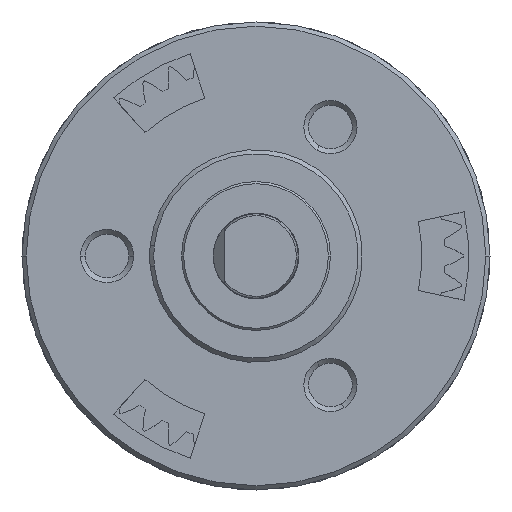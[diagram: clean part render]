
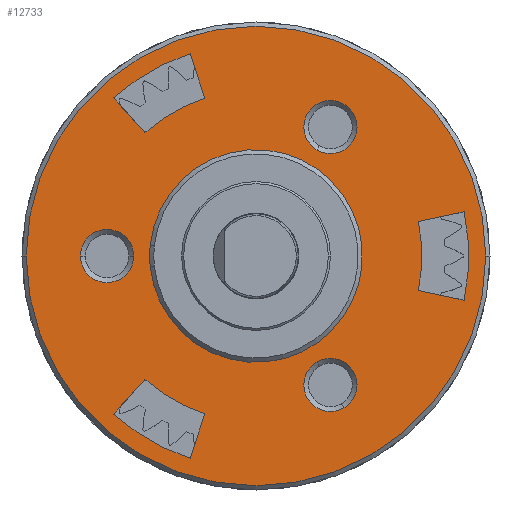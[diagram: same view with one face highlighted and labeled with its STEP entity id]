
A CAD part, left-side view. The second image highlights one B-rep face of the part: STEP entity #12733.
In plain terms, the highlighted planar face has unit normal (-1, 0, 0).
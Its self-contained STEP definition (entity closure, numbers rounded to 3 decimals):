
#4932=CARTESIAN_POINT('',(-1.6,0.,0.));
#4933=DIRECTION('',(-1.,0.,0.));
#4934=DIRECTION('',(0.,1.,0.));
#4935=AXIS2_PLACEMENT_3D('',#4932,#4933,#4934);
#4940=CARTESIAN_POINT('',(-1.6,0.,0.));
#4941=DIRECTION('',(-1.,0.,0.));
#4942=DIRECTION('',(0.,-1.,0.));
#4943=AXIS2_PLACEMENT_3D('',#4940,#4941,#4942);
#4948=CARTESIAN_POINT('',(-1.6,7.,0.));
#4949=DIRECTION('',(-1.,0.,0.));
#4950=DIRECTION('',(0.,1.,0.));
#4951=AXIS2_PLACEMENT_3D('',#4948,#4949,#4950);
#4956=CARTESIAN_POINT('',(-1.6,7.,0.));
#4957=DIRECTION('',(-1.,0.,0.));
#4958=DIRECTION('',(0.,-1.,0.));
#4959=AXIS2_PLACEMENT_3D('',#4956,#4957,#4958);
#4964=CARTESIAN_POINT('',(-1.6,-3.5,6.062));
#4965=DIRECTION('',(-1.,0.,0.));
#4966=DIRECTION('',(0.,-0.5,0.866));
#4967=AXIS2_PLACEMENT_3D('',#4964,#4965,#4966);
#4972=CARTESIAN_POINT('',(-1.6,-3.5,6.062));
#4973=DIRECTION('',(-1.,0.,0.));
#4974=DIRECTION('',(0.,0.5,-0.866));
#4975=AXIS2_PLACEMENT_3D('',#4972,#4973,#4974);
#4980=CARTESIAN_POINT('',(-1.6,-3.5,-6.062));
#4981=DIRECTION('',(-1.,0.,0.));
#4982=DIRECTION('',(0.,-0.5,-0.866));
#4983=AXIS2_PLACEMENT_3D('',#4980,#4981,#4982);
#4988=CARTESIAN_POINT('',(-1.6,-3.5,-6.062));
#4989=DIRECTION('',(-1.,0.,0.));
#4990=DIRECTION('',(0.,0.5,0.866));
#4991=AXIS2_PLACEMENT_3D('',#4988,#4989,#4990);
#4996=DIRECTION('',(0.,-0.978,-0.208));
#4997=VECTOR('',#4996,2.2);
#4998=CARTESIAN_POINT('',(-1.6,-7.63,-1.622));
#4999=LINE('',#4998,#4997);
#5003=CARTESIAN_POINT('',(-1.6,0.,0.));
#5004=DIRECTION('',(-1.,0.,0.));
#5005=DIRECTION('',(0.,-0.978,-0.208));
#5006=AXIS2_PLACEMENT_3D('',#5003,#5004,#5005);
#5011=DIRECTION('',(0.,0.978,-0.208));
#5012=VECTOR('',#5011,2.2);
#5013=CARTESIAN_POINT('',(-1.6,-9.781,2.079));
#5014=LINE('',#5013,#5012);
#5018=CARTESIAN_POINT('',(-1.6,0.,0.));
#5019=DIRECTION('',(-1.,0.,0.));
#5020=DIRECTION('',(0.,-0.978,-0.208));
#5021=AXIS2_PLACEMENT_3D('',#5018,#5019,#5020);
#5026=DIRECTION('',(0.,0.669,-0.743));
#5027=VECTOR('',#5026,2.2);
#5028=CARTESIAN_POINT('',(-1.6,5.219,-5.797));
#5029=LINE('',#5028,#5027);
#5033=CARTESIAN_POINT('',(-1.6,0.,0.));
#5034=DIRECTION('',(-1.,0.,0.));
#5035=DIRECTION('',(0.,0.669,-0.743));
#5036=AXIS2_PLACEMENT_3D('',#5033,#5034,#5035);
#5041=DIRECTION('',(0.,-0.309,0.951));
#5042=VECTOR('',#5041,2.2);
#5043=CARTESIAN_POINT('',(-1.6,3.09,-9.511));
#5044=LINE('',#5043,#5042);
#5048=CARTESIAN_POINT('',(-1.6,0.,0.));
#5049=DIRECTION('',(-1.,0.,0.));
#5050=DIRECTION('',(0.,0.669,-0.743));
#5051=AXIS2_PLACEMENT_3D('',#5048,#5049,#5050);
#5056=DIRECTION('',(0.,0.309,0.951));
#5057=VECTOR('',#5056,2.2);
#5058=CARTESIAN_POINT('',(-1.6,2.41,7.418));
#5059=LINE('',#5058,#5057);
#5063=CARTESIAN_POINT('',(-1.6,0.,0.));
#5064=DIRECTION('',(-1.,0.,0.));
#5065=DIRECTION('',(0.,0.309,0.951));
#5066=AXIS2_PLACEMENT_3D('',#5063,#5064,#5065);
#5071=DIRECTION('',(0.,-0.669,-0.743));
#5072=VECTOR('',#5071,2.2);
#5073=CARTESIAN_POINT('',(-1.6,6.691,7.431));
#5074=LINE('',#5073,#5072);
#5078=CARTESIAN_POINT('',(-1.6,0.,0.));
#5079=DIRECTION('',(-1.,0.,0.));
#5080=DIRECTION('',(0.,0.309,0.951));
#5081=AXIS2_PLACEMENT_3D('',#5078,#5079,#5080);
#6962=CARTESIAN_POINT('',(-1.6,0.,0.));
#6963=DIRECTION('',(1.,0.,0.));
#6964=DIRECTION('',(0.,0.995,0.1));
#6965=AXIS2_PLACEMENT_3D('',#6962,#6963,#6964);
#6978=CARTESIAN_POINT('',(-1.6,0.,0.));
#6979=DIRECTION('',(-1.,0.,0.));
#6980=DIRECTION('',(0.,0.995,0.1));
#6981=AXIS2_PLACEMENT_3D('',#6978,#6979,#6980);
#7683=CARTESIAN_POINT('',(-1.6,10.8,0.));
#7684=CARTESIAN_POINT('',(-1.6,-10.8,0.));
#7685=VERTEX_POINT('',#7683);
#7686=VERTEX_POINT('',#7684);
#7695=CARTESIAN_POINT('',(-1.6,8.25,0.));
#7696=CARTESIAN_POINT('',(-1.6,5.75,0.));
#7697=VERTEX_POINT('',#7695);
#7698=VERTEX_POINT('',#7696);
#7703=CARTESIAN_POINT('',(-1.6,-4.125,7.145));
#7704=CARTESIAN_POINT('',(-1.6,-2.875,4.98));
#7705=VERTEX_POINT('',#7703);
#7706=VERTEX_POINT('',#7704);
#7711=CARTESIAN_POINT('',(-1.6,-4.125,-7.145));
#7712=CARTESIAN_POINT('',(-1.6,-2.875,-4.98));
#7713=VERTEX_POINT('',#7711);
#7714=VERTEX_POINT('',#7712);
#7731=CARTESIAN_POINT('',(-1.6,-7.63,-1.622));
#7732=CARTESIAN_POINT('',(-1.6,-9.781,-2.079));
#7733=VERTEX_POINT('',#7731);
#7734=VERTEX_POINT('',#7732);
#7735=CARTESIAN_POINT('',(-1.6,-9.781,2.079));
#7736=VERTEX_POINT('',#7735);
#7737=CARTESIAN_POINT('',(-1.6,-7.63,1.622));
#7738=VERTEX_POINT('',#7737);
#7743=CARTESIAN_POINT('',(-1.6,5.219,-5.797));
#7744=CARTESIAN_POINT('',(-1.6,6.691,-7.431));
#7745=VERTEX_POINT('',#7743);
#7746=VERTEX_POINT('',#7744);
#7747=CARTESIAN_POINT('',(-1.6,3.09,-9.511));
#7748=VERTEX_POINT('',#7747);
#7749=CARTESIAN_POINT('',(-1.6,2.41,-7.418));
#7750=VERTEX_POINT('',#7749);
#7755=CARTESIAN_POINT('',(-1.6,2.41,7.418));
#7756=CARTESIAN_POINT('',(-1.6,3.09,9.511));
#7757=VERTEX_POINT('',#7755);
#7758=VERTEX_POINT('',#7756);
#7759=CARTESIAN_POINT('',(-1.6,6.691,7.431));
#7760=VERTEX_POINT('',#7759);
#7761=CARTESIAN_POINT('',(-1.6,5.219,5.797));
#7762=VERTEX_POINT('',#7761);
#7763=CARTESIAN_POINT('',(-1.6,4.975,0.5));
#7764=CARTESIAN_POINT('',(-1.6,4.975,-0.5));
#7765=VERTEX_POINT('',#7763);
#7766=VERTEX_POINT('',#7764);
#12669=CARTESIAN_POINT('',(-1.6,0.,0.));
#12670=DIRECTION('',(-1.,0.,0.));
#12671=DIRECTION('',(0.,1.,0.));
#12672=AXIS2_PLACEMENT_3D('',#12669,#12670,#12671);
#12673=PLANE('',#12672);
#12675=ORIENTED_EDGE('',*,*,#12674,.F.);
#12676=ORIENTED_EDGE('',*,*,#12659,.F.);
#12677=EDGE_LOOP('',(#12675,#12676));
#12678=FACE_OUTER_BOUND('',#12677,.F.);
#12680=ORIENTED_EDGE('',*,*,#12679,.T.);
#12682=ORIENTED_EDGE('',*,*,#12681,.T.);
#12683=EDGE_LOOP('',(#12680,#12682));
#12684=FACE_BOUND('',#12683,.F.);
#12686=ORIENTED_EDGE('',*,*,#12685,.T.);
#12688=ORIENTED_EDGE('',*,*,#12687,.T.);
#12689=EDGE_LOOP('',(#12686,#12688));
#12690=FACE_BOUND('',#12689,.F.);
#12692=ORIENTED_EDGE('',*,*,#12691,.T.);
#12694=ORIENTED_EDGE('',*,*,#12693,.T.);
#12695=EDGE_LOOP('',(#12692,#12694));
#12696=FACE_BOUND('',#12695,.F.);
#12698=ORIENTED_EDGE('',*,*,#12697,.T.);
#12700=ORIENTED_EDGE('',*,*,#12699,.T.);
#12702=ORIENTED_EDGE('',*,*,#12701,.T.);
#12704=ORIENTED_EDGE('',*,*,#12703,.F.);
#12705=EDGE_LOOP('',(#12698,#12700,#12702,#12704));
#12706=FACE_BOUND('',#12705,.F.);
#12708=ORIENTED_EDGE('',*,*,#12707,.T.);
#12710=ORIENTED_EDGE('',*,*,#12709,.T.);
#12712=ORIENTED_EDGE('',*,*,#12711,.T.);
#12714=ORIENTED_EDGE('',*,*,#12713,.F.);
#12715=EDGE_LOOP('',(#12708,#12710,#12712,#12714));
#12716=FACE_BOUND('',#12715,.F.);
#12718=ORIENTED_EDGE('',*,*,#12717,.T.);
#12720=ORIENTED_EDGE('',*,*,#12719,.T.);
#12722=ORIENTED_EDGE('',*,*,#12721,.T.);
#12724=ORIENTED_EDGE('',*,*,#12723,.F.);
#12725=EDGE_LOOP('',(#12718,#12720,#12722,#12724));
#12726=FACE_BOUND('',#12725,.F.);
#12728=ORIENTED_EDGE('',*,*,#12727,.F.);
#12730=ORIENTED_EDGE('',*,*,#12729,.T.);
#12731=EDGE_LOOP('',(#12728,#12730));
#12732=FACE_BOUND('',#12731,.F.);
#12733=ADVANCED_FACE('',(#12678,#12684,#12690,#12696,#12706,#12716,#12726,
#12732),#12673,.T.);
#4936=CIRCLE('',#4935,10.8);
#4944=CIRCLE('',#4943,10.8);
#4952=CIRCLE('',#4951,1.25);
#4960=CIRCLE('',#4959,1.25);
#4968=CIRCLE('',#4967,1.25);
#4976=CIRCLE('',#4975,1.25);
#4984=CIRCLE('',#4983,1.25);
#4992=CIRCLE('',#4991,1.25);
#5007=CIRCLE('',#5006,10.);
#5022=CIRCLE('',#5021,7.8);
#5037=CIRCLE('',#5036,10.);
#5052=CIRCLE('',#5051,7.8);
#5067=CIRCLE('',#5066,10.);
#5082=CIRCLE('',#5081,7.8);
#6966=CIRCLE('',#6965,5.);
#6982=CIRCLE('',#6981,5.);
#12659=EDGE_CURVE('',#7686,#7685,#4944,.T.);
#12674=EDGE_CURVE('',#7685,#7686,#4936,.T.);
#12679=EDGE_CURVE('',#7697,#7698,#4952,.T.);
#12681=EDGE_CURVE('',#7698,#7697,#4960,.T.);
#12685=EDGE_CURVE('',#7705,#7706,#4968,.T.);
#12687=EDGE_CURVE('',#7706,#7705,#4976,.T.);
#12691=EDGE_CURVE('',#7713,#7714,#4984,.T.);
#12693=EDGE_CURVE('',#7714,#7713,#4992,.T.);
#12697=EDGE_CURVE('',#7733,#7734,#4999,.T.);
#12699=EDGE_CURVE('',#7734,#7736,#5007,.T.);
#12701=EDGE_CURVE('',#7736,#7738,#5014,.T.);
#12703=EDGE_CURVE('',#7733,#7738,#5022,.T.);
#12707=EDGE_CURVE('',#7745,#7746,#5029,.T.);
#12709=EDGE_CURVE('',#7746,#7748,#5037,.T.);
#12711=EDGE_CURVE('',#7748,#7750,#5044,.T.);
#12713=EDGE_CURVE('',#7745,#7750,#5052,.T.);
#12717=EDGE_CURVE('',#7757,#7758,#5059,.T.);
#12719=EDGE_CURVE('',#7758,#7760,#5067,.T.);
#12721=EDGE_CURVE('',#7760,#7762,#5074,.T.);
#12723=EDGE_CURVE('',#7757,#7762,#5082,.T.);
#12727=EDGE_CURVE('',#7765,#7766,#6966,.T.);
#12729=EDGE_CURVE('',#7765,#7766,#6982,.T.);
